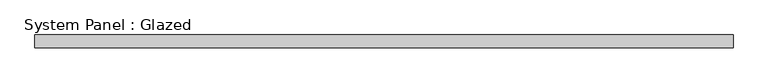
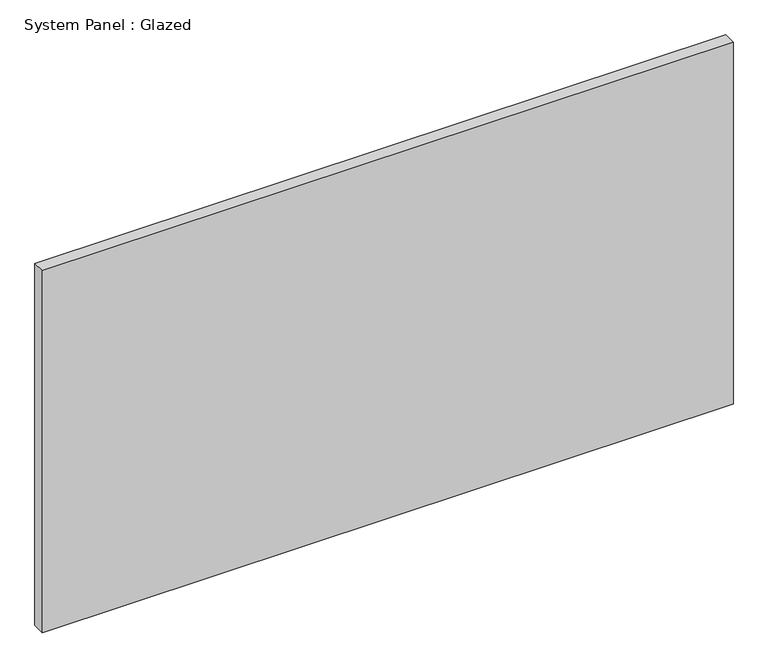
"""IFC4 building model written with IfcOpenShell, lengths in millimetres: plate geometry, System Panel : Glazed."""

from ifc_helpers import new_model, si_unit, origin, origin_with_axes, place, context, project, spatial, polyline, outline, extrude, source, transform, mapped, element, save


def system_panel_glazed_af97afc8(model_context):
    return source(origin(), model_context, "Body", "SweptSolid", [
        extrude(outline(polyline([(676.1589134, -49.5), (-676.1589134, -49.5), (-676.1589134, -24.5), (676.1589134, -24.5), (676.1589134, -49.5)])), origin_with_axes(), (0.0, 0.0, 1.0), 749.5150656),
    ])


if __name__ == "__main__":
    model = new_model("IFC4")
    model_context = context("Model", 3, world=origin())
    ifc_project = project(units=[si_unit("LENGTHUNIT", "METRE", prefix="MILLI")], contexts=[model_context])
    site = spatial("IfcSite", under=ifc_project)
    building = spatial("IfcBuilding", under=site)
    placement = place(None, origin())
    system_panel_glazed_shape = system_panel_glazed_af97afc8(model_context)
    element("IfcPlate", 1, ObjectType="System Panel : Glazed", at=placement, inside=building, context=model_context, shape_type="MappedRepresentation", body=[
        mapped(system_panel_glazed_shape, transform((0.0, 0.0, 0.0), x_axis=(1.0, 0.0, 0.0), y_axis=(0.0, 1.0, 0.0), z_axis=(0.0, 0.0, 1.0))),
    ])
    save(model, "model.ifc")
